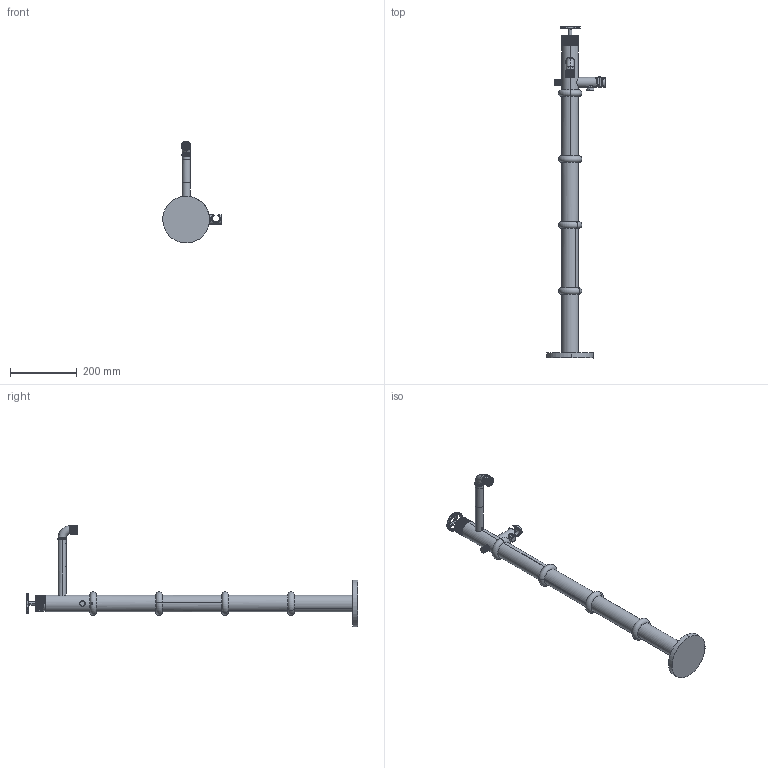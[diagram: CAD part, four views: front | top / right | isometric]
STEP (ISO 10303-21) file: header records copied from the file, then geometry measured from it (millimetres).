
FILE_DESCRIPTION (( 'STEP AP214' ), '1' );
FILE_NAME ('78117910 x architetti.STEP', '2024-10-18T11:40:25', ( '' ), ( '' ), 'SwSTEP 2.0', 'SolidWorks 2020', '' );
FILE_SCHEMA (( 'AUTOMOTIVE_DESIGN' ));
Length unit declared in the file: millimetre
Products named in the file (1): 78117910 x architetti
Bounding box: 174.8 x 994 x 304.73 mm (x, y, z)
Volume: 2123939.1 mm3; surface area: 484601.4 mm2
Topology: 3 solids, 23 shells, 2335 faces, 6307 edges, 4016 vertices
Faces by surface type: cylinder 949, plane 944, bspline 273, cone 91, torus 78
Entity records: 133606 total; most frequent: CARTESIAN_POINT 53034, ORIENTED_EDGE 12594, DIRECTION 9809, EDGE_CURVE 6297, VERTEX_POINT 4016, AXIS2_PLACEMENT_3D 3489, VECTOR 2831, LINE 2831
